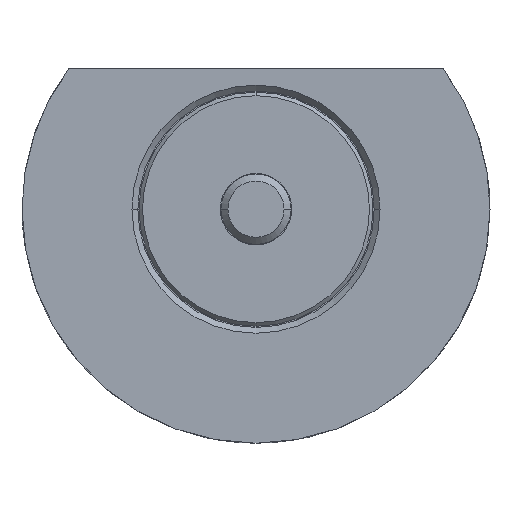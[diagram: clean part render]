
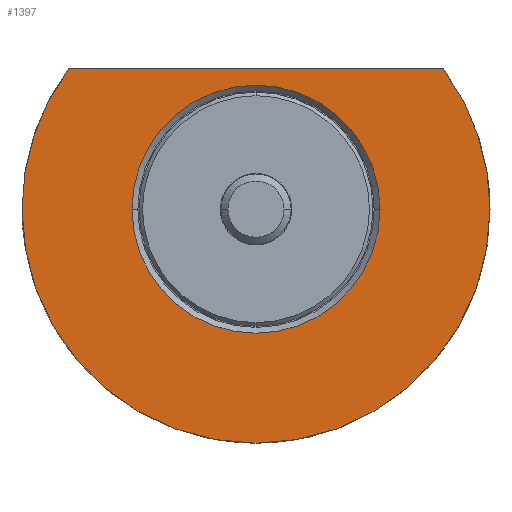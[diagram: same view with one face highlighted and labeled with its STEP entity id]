
A CAD part, front view. The second image highlights one B-rep face of the part: STEP entity #1397.
In plain terms, the highlighted planar face has unit normal (0, -1, 0).
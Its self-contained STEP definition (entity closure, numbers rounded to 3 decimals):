
#62 = VERTEX_POINT ( 'NONE', #1864 ) ;
#92 = AXIS2_PLACEMENT_3D ( 'NONE', #2474, #410, #1000 ) ;
#128 = EDGE_LOOP ( 'NONE', ( #2540, #764 ) ) ;
#239 = FACE_OUTER_BOUND ( 'NONE', #463, .T. ) ;
#290 = EDGE_CURVE ( 'NONE', #1449, #1529, #1423, .T. ) ;
#302 = DIRECTION ( 'NONE',  ( 0., 1., 0. ) ) ;
#410 = DIRECTION ( 'NONE',  ( 0., 1., 0. ) ) ;
#443 = DIRECTION ( 'NONE',  ( 1., 0., 0. ) ) ;
#445 = VERTEX_POINT ( 'NONE', #1300 ) ;
#463 = EDGE_LOOP ( 'NONE', ( #1686, #1328, #2357, #1459 ) ) ;
#475 = EDGE_CURVE ( 'NONE', #661, #62, #1584, .T. ) ;
#479 = CARTESIAN_POINT ( 'NONE',  ( 20., -10., 0. ) ) ;
#522 = EDGE_CURVE ( 'NONE', #1166, #445, #1568, .T. ) ;
#623 = CARTESIAN_POINT ( 'NONE',  ( -10.6, -10., 0. ) ) ;
#654 = DIRECTION ( 'NONE',  ( 0., -1., 0. ) ) ;
#661 = VERTEX_POINT ( 'NONE', #623 ) ;
#665 = DIRECTION ( 'NONE',  ( 0., 1., 0. ) ) ;
#684 = CARTESIAN_POINT ( 'NONE',  ( 16.001, -10., 11.999 ) ) ;
#717 = AXIS2_PLACEMENT_3D ( 'NONE', #1674, #855, #1761 ) ;
#764 = ORIENTED_EDGE ( 'NONE', *, *, #475, .T. ) ;
#848 = CIRCLE ( 'NONE', #1913, 20. ) ;
#855 = DIRECTION ( 'NONE',  ( 0., 1., 0. ) ) ;
#866 = CARTESIAN_POINT ( 'NONE',  ( 0., -10., 0. ) ) ;
#903 = DIRECTION ( 'NONE',  ( -1., 0., 0. ) ) ;
#1000 = DIRECTION ( 'NONE',  ( -1., 0., 0. ) ) ;
#1016 = PLANE ( 'NONE',  #1148 ) ;
#1029 = CARTESIAN_POINT ( 'NONE',  ( 0., -10., 0. ) ) ;
#1148 = AXIS2_PLACEMENT_3D ( 'NONE', #2505, #654, #443 ) ;
#1166 = VERTEX_POINT ( 'NONE', #684 ) ;
#1300 = CARTESIAN_POINT ( 'NONE',  ( -16.001, -10., 11.999 ) ) ;
#1328 = ORIENTED_EDGE ( 'NONE', *, *, #522, .T. ) ;
#1391 = EDGE_CURVE ( 'NONE', #62, #661, #1954, .T. ) ;
#1397 = ADVANCED_FACE ( 'NONE', ( #1492, #239 ), #1016, .T. ) ;
#1423 = CIRCLE ( 'NONE', #92, 20. ) ;
#1449 = VERTEX_POINT ( 'NONE', #479 ) ;
#1459 = ORIENTED_EDGE ( 'NONE', *, *, #290, .F. ) ;
#1492 = FACE_BOUND ( 'NONE', #128, .T. ) ;
#1529 = VERTEX_POINT ( 'NONE', #1900 ) ;
#1568 = LINE ( 'NONE', #1733, #2491 ) ;
#1584 = CIRCLE ( 'NONE', #717, 10.6 ) ;
#1600 = EDGE_CURVE ( 'NONE', #1529, #445, #2395, .T. ) ;
#1656 = AXIS2_PLACEMENT_3D ( 'NONE', #866, #665, #1684 ) ;
#1674 = CARTESIAN_POINT ( 'NONE',  ( 0., -10., 0. ) ) ;
#1684 = DIRECTION ( 'NONE',  ( -1., 0., 0. ) ) ;
#1686 = ORIENTED_EDGE ( 'NONE', *, *, #1842, .F. ) ;
#1733 = CARTESIAN_POINT ( 'NONE',  ( -10.6, -10., 11.999 ) ) ;
#1761 = DIRECTION ( 'NONE',  ( -1., 0., 0. ) ) ;
#1842 = EDGE_CURVE ( 'NONE', #1166, #1449, #848, .T. ) ;
#1864 = CARTESIAN_POINT ( 'NONE',  ( 10.6, -10., 0. ) ) ;
#1900 = CARTESIAN_POINT ( 'NONE',  ( -20., -10., 0. ) ) ;
#1913 = AXIS2_PLACEMENT_3D ( 'NONE', #1029, #2239, #903 ) ;
#1954 = CIRCLE ( 'NONE', #1656, 10.6 ) ;
#2014 = DIRECTION ( 'NONE',  ( -1., 0., 0. ) ) ;
#2221 = AXIS2_PLACEMENT_3D ( 'NONE', #2559, #302, #2014 ) ;
#2239 = DIRECTION ( 'NONE',  ( 0., 1., 0. ) ) ;
#2357 = ORIENTED_EDGE ( 'NONE', *, *, #1600, .F. ) ;
#2374 = DIRECTION ( 'NONE',  ( -1., 0., 0. ) ) ;
#2395 = CIRCLE ( 'NONE', #2221, 20. ) ;
#2474 = CARTESIAN_POINT ( 'NONE',  ( 0., -10., 0. ) ) ;
#2491 = VECTOR ( 'NONE', #2374, 1000. ) ;
#2505 = CARTESIAN_POINT ( 'NONE',  ( -10.6, -10., 0. ) ) ;
#2540 = ORIENTED_EDGE ( 'NONE', *, *, #1391, .T. ) ;
#2559 = CARTESIAN_POINT ( 'NONE',  ( 0., -10., 0. ) ) ;
